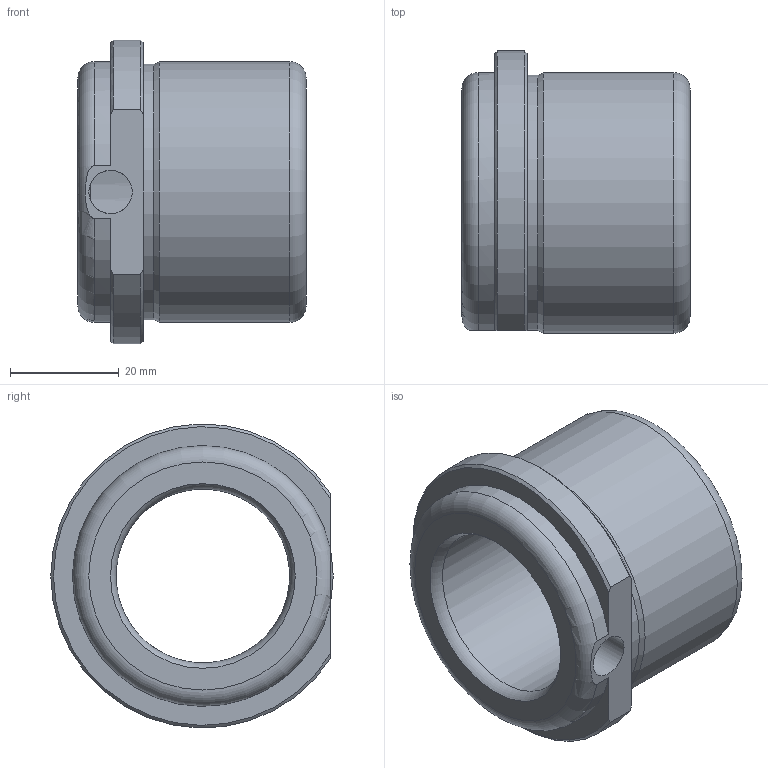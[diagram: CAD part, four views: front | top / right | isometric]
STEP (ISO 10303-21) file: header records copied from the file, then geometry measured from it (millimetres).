
FILE_DESCRIPTION(/* description */ ('Impex Ready, www.impex-ready.pl'),/* implementation_level */ '2;1');
FILE_NAME(/* name */ 'C:\Users\VIKKY\Nextcloud\SM\projekt 10 - części na stronę internetową\Pliki_3D_new\273 Tuleje BEBA\273_BEBA_STEP\BEBA32-5.ipt.step',/* time_stamp */ '2022-01-19T05:45:14+01:00',/* author */ ('SM'),/* organization */ (''),/* preprocessor_version */ 'ST-DEVELOPER v18.1',/* originating_system */ 'Autodesk Inventor 2021',/* authorisation */ '');
FILE_SCHEMA (('AUTOMOTIVE_DESIGN { 1 0 10303 214 3 1 1 }'));
Length unit declared in the file: millimetre
Products named in the file (1): BEBA32-5
Bounding box: 42 x 52 x 55.97 mm (x, y, z)
Volume: 44260.4 mm3; surface area: 22259.2 mm2
Topology: 2 solids, 2 shells, 21 faces, 59 edges, 37 vertices
Faces by surface type: cylinder 9, plane 5, torus 4, cone 3
Full cylindrical faces by diameter (mm): 8 x2, 32 x1, 34 x2, 47 x1, 48 x1
Entity records: 908 total; most frequent: CARTESIAN_POINT 267, ORIENTED_EDGE 118, DIRECTION 112, EDGE_CURVE 59, AXIS2_PLACEMENT_3D 47, VERTEX_POINT 37, CIRCLE 25, EDGE_LOOP 24
